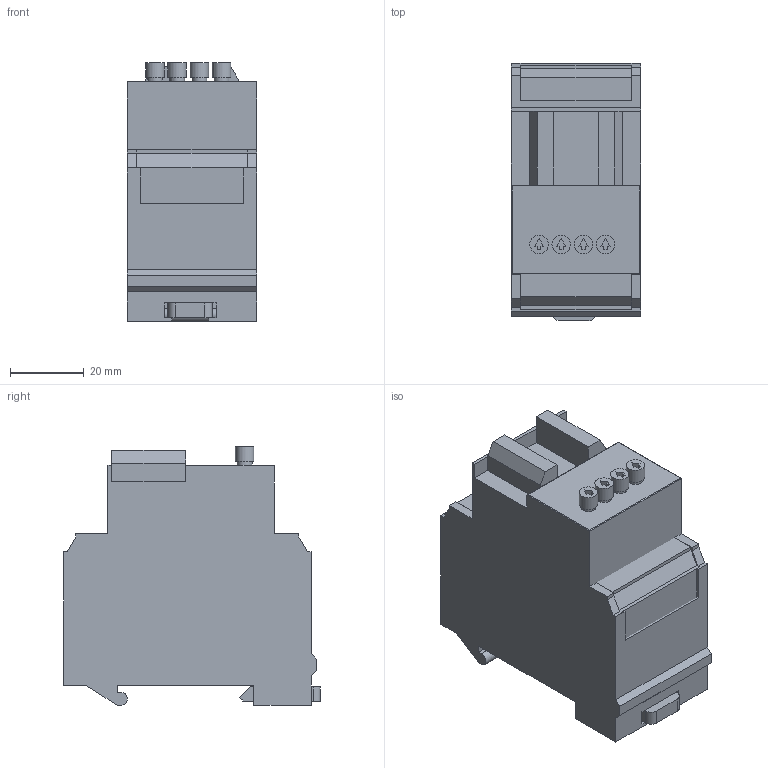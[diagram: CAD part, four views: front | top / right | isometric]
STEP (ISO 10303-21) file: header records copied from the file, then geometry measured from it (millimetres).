
FILE_DESCRIPTION(('FreeCAD Model'),'2;1');
FILE_NAME( 'V:/SBC/3D/_____PCD7.L410/SBC_STEP_RIO_PCD7L410_2021-03-13_V2.step', '2021-03-13T23:11:54',('Author'),(''), 'Open CASCADE STEP processor 7.3','FreeCAD','Unknown');
FILE_SCHEMA(('AUTOMOTIVE_DESIGN { 1 0 10303 214 1 1 1 1 }'));
Length unit declared in the file: millimetre
Products named in the file (14): Box; Stecker_hinten; Stecker_oben_links; Stecker_oben_rechts; Schnapper; Swicht-Lever_002; Switch-Ring_1; Swicht-Lever_1; Switch-Ring_002; Switch-Ring_003; Stecker_vorne; Switch-Ring_004; Swicht-Lever_004; Swicht-Lever_003
Bounding box: 35 x 69.5 x 70 mm (x, y, z)
Volume: 127912.5 mm3; surface area: 24035.5 mm2
Topology: 14 solids, 14 shells, 168 faces, 400 edges, 264 vertices
Faces by surface type: plane 149, cylinder 15, torus 4
Full cylindrical faces by diameter (mm): 4 x4, 5 x4
Entity records: 10287 total; most frequent: CARTESIAN_POINT 1709, DIRECTION 1562, LINE 1136, VECTOR 1136, ORIENTED_EDGE 800, PCURVE 800, DEFINITIONAL_REPRESENTATION 800, EDGE_CURVE 400
